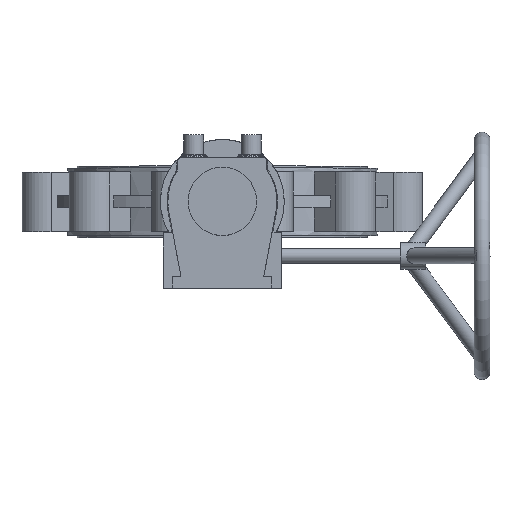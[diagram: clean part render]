
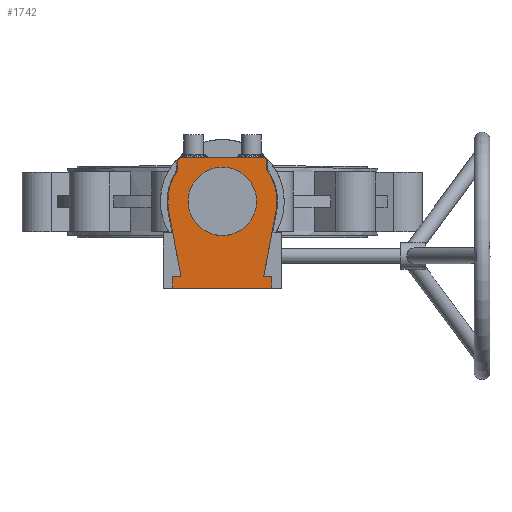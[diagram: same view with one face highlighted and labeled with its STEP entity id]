
A CAD part, top view. The second image highlights one B-rep face of the part: STEP entity #1742.
In plain terms, the highlighted planar face has unit normal (0, 0, 1) as drawn and (0, 0, -1) by its records, which use the part's own axes.
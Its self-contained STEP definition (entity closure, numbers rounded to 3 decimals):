
#57 = CARTESIAN_POINT ( 'NONE',  ( -9.774, -48.311, 100.08 ) ) ;
#119 = DIRECTION ( 'NONE',  ( -0.185, -0.983, 0. ) ) ;
#207 = DIRECTION ( 'NONE',  ( 0., 0., -1. ) ) ;
#234 = CIRCLE ( 'NONE', #6860, 55. ) ;
#626 = AXIS2_PLACEMENT_3D ( 'NONE', #4333, #207, #6769 ) ;
#686 = EDGE_CURVE ( 'NONE', #5187, #4744, #4677, .T. ) ;
#759 = DIRECTION ( 'NONE',  ( 0., 0., -1. ) ) ;
#921 = VERTEX_POINT ( 'NONE', #969 ) ;
#969 = CARTESIAN_POINT ( 'NONE',  ( -63.829, -58.462, 100.08 ) ) ;
#1030 = EDGE_CURVE ( 'NONE', #2589, #3502, #7418, .T. ) ;
#1216 = ORIENTED_EDGE ( 'NONE', *, *, #9468, .T. ) ;
#1220 = DIRECTION ( 'NONE',  ( 0., 0., -1. ) ) ;
#1281 = VECTOR ( 'NONE', #10476, 1000. ) ;
#1393 = EDGE_CURVE ( 'NONE', #9243, #10001, #5314, .T. ) ;
#1690 = ORIENTED_EDGE ( 'NONE', *, *, #5251, .T. ) ;
#1706 = ORIENTED_EDGE ( 'NONE', *, *, #1030, .T. ) ;
#1742 = ADVANCED_FACE ( 'NONE', ( #8970, #1810 ), #3490, .T. ) ;
#1810 = FACE_BOUND ( 'NONE', #5178, .T. ) ;
#1927 = CARTESIAN_POINT ( 'NONE',  ( -9.774, -48.311, 100.08 ) ) ;
#2035 = LINE ( 'NONE', #3028, #8555 ) ;
#2072 = VERTEX_POINT ( 'NONE', #2628 ) ;
#2181 = AXIS2_PLACEMENT_3D ( 'NONE', #4999, #5857, #8245 ) ;
#2253 = DIRECTION ( 'NONE',  ( -1., 0., 0. ) ) ;
#2317 = CIRCLE ( 'NONE', #2181, 34.5 ) ;
#2465 = DIRECTION ( 'NONE',  ( -1., 0., 0. ) ) ;
#2491 = ORIENTED_EDGE ( 'NONE', *, *, #7297, .T. ) ;
#2589 = VERTEX_POINT ( 'NONE', #3554 ) ;
#2599 = CARTESIAN_POINT ( 'NONE',  ( 44.282, -58.462, 100.08 ) ) ;
#2628 = CARTESIAN_POINT ( 'NONE',  ( 31.965, -124.05, 100.08 ) ) ;
#2921 = EDGE_CURVE ( 'NONE', #10001, #2589, #8881, .T. ) ;
#2984 = LINE ( 'NONE', #8724, #1281 ) ;
#3028 = CARTESIAN_POINT ( 'NONE',  ( -59.663, -124.05, 100.08 ) ) ;
#3070 = CARTESIAN_POINT ( 'NONE',  ( -51.774, -7.311, 100.08 ) ) ;
#3285 = CARTESIAN_POINT ( 'NONE',  ( 40.131, -135.993, 100.08 ) ) ;
#3304 = CARTESIAN_POINT ( 'NONE',  ( 40.131, -124.05, 100.08 ) ) ;
#3357 = LINE ( 'NONE', #7222, #9737 ) ;
#3490 = PLANE ( 'NONE',  #626 ) ;
#3502 = VERTEX_POINT ( 'NONE', #5402 ) ;
#3553 = EDGE_CURVE ( 'NONE', #5602, #5187, #2035, .T. ) ;
#3554 = CARTESIAN_POINT ( 'NONE',  ( 35.226, -7.311, 100.08 ) ) ;
#3555 = CARTESIAN_POINT ( 'NONE',  ( -54.774, -16.688, 100.08 ) ) ;
#3594 = VECTOR ( 'NONE', #3629, 1000. ) ;
#3629 = DIRECTION ( 'NONE',  ( 0., 1., 0. ) ) ;
#3644 = ORIENTED_EDGE ( 'NONE', *, *, #686, .T. ) ;
#3887 = VECTOR ( 'NONE', #119, 1000. ) ;
#3892 = EDGE_CURVE ( 'NONE', #5920, #5920, #2317, .T. ) ;
#3999 = DIRECTION ( 'NONE',  ( 1., 0., 0. ) ) ;
#4092 = CARTESIAN_POINT ( 'NONE',  ( -54.774, -16.688, 100.08 ) ) ;
#4142 = ORIENTED_EDGE ( 'NONE', *, *, #7692, .T. ) ;
#4333 = CARTESIAN_POINT ( 'NONE',  ( -9.774, -48.311, 100.08 ) ) ;
#4472 = AXIS2_PLACEMENT_3D ( 'NONE', #8984, #759, #2253 ) ;
#4637 = CIRCLE ( 'NONE', #10776, 55. ) ;
#4677 = LINE ( 'NONE', #9930, #7921 ) ;
#4744 = VERTEX_POINT ( 'NONE', #5338 ) ;
#4932 = CARTESIAN_POINT ( 'NONE',  ( 32.226, -4.311, 100.08 ) ) ;
#4961 = ORIENTED_EDGE ( 'NONE', *, *, #7622, .T. ) ;
#4999 = CARTESIAN_POINT ( 'NONE',  ( -9.774, -48.311, 100.08 ) ) ;
#5178 = EDGE_LOOP ( 'NONE', ( #6518 ) ) ;
#5187 = VERTEX_POINT ( 'NONE', #6053 ) ;
#5221 = ORIENTED_EDGE ( 'NONE', *, *, #9537, .T. ) ;
#5251 = EDGE_CURVE ( 'NONE', #8487, #8199, #7615, .T. ) ;
#5314 = LINE ( 'NONE', #8031, #5721 ) ;
#5321 = VERTEX_POINT ( 'NONE', #10222 ) ;
#5338 = CARTESIAN_POINT ( 'NONE',  ( -51.513, -124.05, 100.08 ) ) ;
#5378 = AXIS2_PLACEMENT_3D ( 'NONE', #3070, #9853, #10692 ) ;
#5402 = CARTESIAN_POINT ( 'NONE',  ( 35.226, -16.688, 100.08 ) ) ;
#5454 = DIRECTION ( 'NONE',  ( 1., 0., 0. ) ) ;
#5460 = CARTESIAN_POINT ( 'NONE',  ( -44.274, -48.311, 100.08 ) ) ;
#5516 = DIRECTION ( 'NONE',  ( 0., 1., 0. ) ) ;
#5571 = CARTESIAN_POINT ( 'NONE',  ( -54.774, -7.311, 100.08 ) ) ;
#5602 = VERTEX_POINT ( 'NONE', #8237 ) ;
#5712 = CIRCLE ( 'NONE', #5378, 3. ) ;
#5721 = VECTOR ( 'NONE', #7128, 1000. ) ;
#5846 = ORIENTED_EDGE ( 'NONE', *, *, #7145, .T. ) ;
#5857 = DIRECTION ( 'NONE',  ( 0., 0., -1. ) ) ;
#5920 = VERTEX_POINT ( 'NONE', #5460 ) ;
#5985 = VECTOR ( 'NONE', #8950, 1000. ) ;
#6053 = CARTESIAN_POINT ( 'NONE',  ( -59.663, -124.05, 100.08 ) ) ;
#6071 = CARTESIAN_POINT ( 'NONE',  ( 40.131, -124.05, 100.08 ) ) ;
#6082 = LINE ( 'NONE', #2599, #3887 ) ;
#6206 = DIRECTION ( 'NONE',  ( -1., 0., 0. ) ) ;
#6402 = VERTEX_POINT ( 'NONE', #3285 ) ;
#6487 = LINE ( 'NONE', #3304, #6990 ) ;
#6518 = ORIENTED_EDGE ( 'NONE', *, *, #3892, .F. ) ;
#6769 = DIRECTION ( 'NONE',  ( 0., -1., 0. ) ) ;
#6860 = AXIS2_PLACEMENT_3D ( 'NONE', #1927, #1220, #6206 ) ;
#6990 = VECTOR ( 'NONE', #9111, 1000. ) ;
#7068 = ORIENTED_EDGE ( 'NONE', *, *, #10297, .F. ) ;
#7128 = DIRECTION ( 'NONE',  ( 1., 0., 0. ) ) ;
#7145 = EDGE_CURVE ( 'NONE', #2072, #9681, #8920, .T. ) ;
#7222 = CARTESIAN_POINT ( 'NONE',  ( -59.663, -135.993, 100.08 ) ) ;
#7297 = EDGE_CURVE ( 'NONE', #8199, #9243, #5712, .T. ) ;
#7342 = VECTOR ( 'NONE', #5454, 1000. ) ;
#7418 = LINE ( 'NONE', #10564, #5985 ) ;
#7615 = LINE ( 'NONE', #3555, #3594 ) ;
#7622 = EDGE_CURVE ( 'NONE', #5321, #2072, #6082, .T. ) ;
#7692 = EDGE_CURVE ( 'NONE', #921, #8487, #234, .T. ) ;
#7921 = VECTOR ( 'NONE', #8926, 1000. ) ;
#8031 = CARTESIAN_POINT ( 'NONE',  ( -51.774, -4.311, 100.08 ) ) ;
#8199 = VERTEX_POINT ( 'NONE', #5571 ) ;
#8231 = EDGE_LOOP ( 'NONE', ( #4961, #5846, #5221, #7068, #9969, #3644, #10104, #4142, #1690, #2491, #10384, #8862, #1706, #1216 ) ) ;
#8237 = CARTESIAN_POINT ( 'NONE',  ( -59.663, -135.993, 100.08 ) ) ;
#8245 = DIRECTION ( 'NONE',  ( -1., 0., 0. ) ) ;
#8304 = DIRECTION ( 'NONE',  ( 0., 0., -1. ) ) ;
#8487 = VERTEX_POINT ( 'NONE', #4092 ) ;
#8555 = VECTOR ( 'NONE', #5516, 1000. ) ;
#8724 = CARTESIAN_POINT ( 'NONE',  ( -50.233, -130.865, 100.08 ) ) ;
#8815 = CARTESIAN_POINT ( 'NONE',  ( -51.774, -4.311, 100.08 ) ) ;
#8821 = EDGE_CURVE ( 'NONE', #4744, #921, #2984, .T. ) ;
#8862 = ORIENTED_EDGE ( 'NONE', *, *, #2921, .T. ) ;
#8881 = CIRCLE ( 'NONE', #4472, 3. ) ;
#8920 = LINE ( 'NONE', #6071, #7342 ) ;
#8926 = DIRECTION ( 'NONE',  ( 1., 0., 0. ) ) ;
#8950 = DIRECTION ( 'NONE',  ( 0., -1., 0. ) ) ;
#8970 = FACE_OUTER_BOUND ( 'NONE', #8231, .T. ) ;
#8984 = CARTESIAN_POINT ( 'NONE',  ( 32.226, -7.311, 100.08 ) ) ;
#9111 = DIRECTION ( 'NONE',  ( 0., -1., 0. ) ) ;
#9243 = VERTEX_POINT ( 'NONE', #8815 ) ;
#9468 = EDGE_CURVE ( 'NONE', #3502, #5321, #4637, .T. ) ;
#9537 = EDGE_CURVE ( 'NONE', #9681, #6402, #6487, .T. ) ;
#9681 = VERTEX_POINT ( 'NONE', #10764 ) ;
#9737 = VECTOR ( 'NONE', #3999, 1000. ) ;
#9853 = DIRECTION ( 'NONE',  ( 0., 0., -1. ) ) ;
#9930 = CARTESIAN_POINT ( 'NONE',  ( 40.131, -124.05, 100.08 ) ) ;
#9969 = ORIENTED_EDGE ( 'NONE', *, *, #3553, .T. ) ;
#10001 = VERTEX_POINT ( 'NONE', #4932 ) ;
#10104 = ORIENTED_EDGE ( 'NONE', *, *, #8821, .T. ) ;
#10222 = CARTESIAN_POINT ( 'NONE',  ( 44.282, -58.462, 100.08 ) ) ;
#10297 = EDGE_CURVE ( 'NONE', #5602, #6402, #3357, .T. ) ;
#10384 = ORIENTED_EDGE ( 'NONE', *, *, #1393, .T. ) ;
#10476 = DIRECTION ( 'NONE',  ( -0.185, 0.983, 0. ) ) ;
#10564 = CARTESIAN_POINT ( 'NONE',  ( 35.226, -7.311, 100.08 ) ) ;
#10692 = DIRECTION ( 'NONE',  ( -1., 0., 0. ) ) ;
#10764 = CARTESIAN_POINT ( 'NONE',  ( 40.131, -124.05, 100.08 ) ) ;
#10776 = AXIS2_PLACEMENT_3D ( 'NONE', #57, #8304, #2465 ) ;
